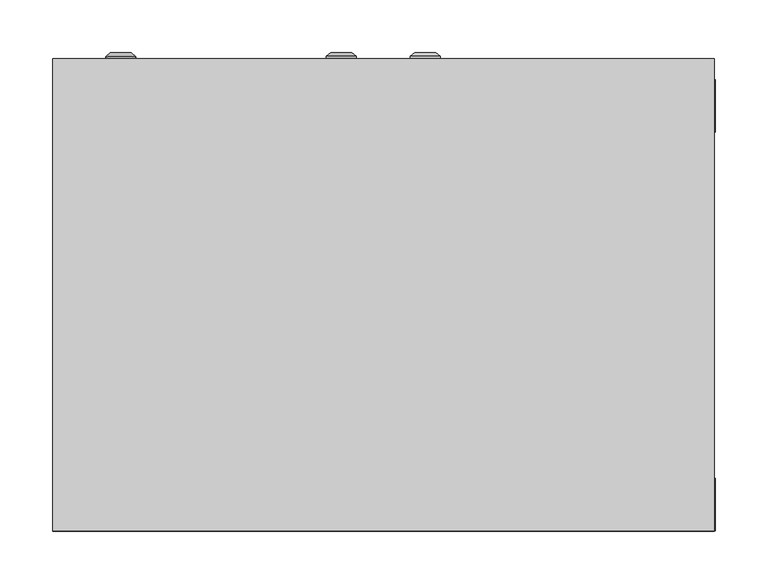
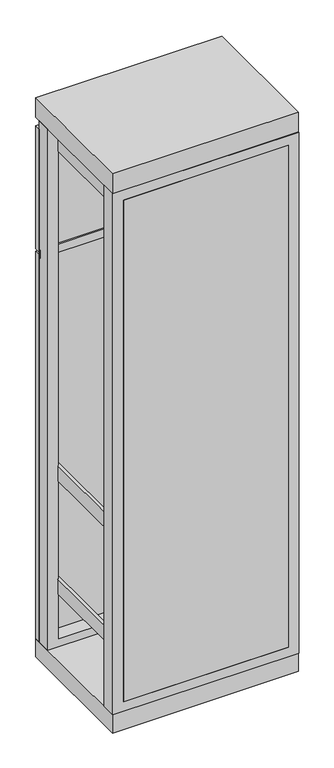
"""IFC4 building model written with IfcOpenShell, lengths in millimetres: proxy geometry, ВРУ-3 : ВРУ-3_2000х630х450."""

from ifc_helpers import new_model, si_unit, frame, origin, origin_with_axes, place, context, project, spatial, polyline, circle_curve, outline, extrude, source, transform, mapped, element, save
from ifc_brep_helpers import plane_surface, cylinder_surface, revolved_surface, advanced_brep


def electrical_equipment_d572dc0e(model_context):
    return source(origin(), model_context, "Body", "SolidModel", [
        advanced_brep(
        [(40.0, 450.0, 1680.0), (25.669873, 450.0, 1680.0), (54.330127, 450.0, 1680.0), (25.669873, 452.366592, 1680.0), (54.330127, 452.366592, 1680.0), (30.0, 456.0, 1680.0), (50.0, 456.0, 1680.0), (38.1080471, 456.0, 1680.0), (41.8919529, 456.0, 1680.0), (38.1080471, 454.9822294, 1680.0), (41.8919529, 454.9822294, 1680.0), (40.0, 454.9822294, 1680.0)],
        [
            (0, 1),
            (1, 2, circle_curve(frame((40.0, 450.0, 1680.0), z_axis=(0.0, -1.0, 0.0), x_axis=(-1.0, 0.0, 0.0)), 14.330127)),
            (2, 0),
            (2, 1, circle_curve(frame((40.0, 450.0, 1680.0), z_axis=(0.0, -1.0, 0.0), x_axis=(-1.0, 0.0, 0.0)), 14.330127)),
            (1, 3),
            (3, 4, circle_curve(frame((40.0, 452.366592, 1680.0), z_axis=(0.0, -1.0, 0.0), x_axis=(-1.0, 0.0, 0.0)), 14.330127)),
            (4, 2),
            (4, 3, circle_curve(frame((40.0, 452.366592, 1680.0), z_axis=(0.0, -1.0, 0.0), x_axis=(-1.0, 0.0, 0.0)), 14.330127)),
            (3, 5),
            (5, 6, circle_curve(frame((40.0, 456.0, 1680.0), z_axis=(0.0, -1.0, 0.0), x_axis=(-1.0, 0.0, 0.0)), 10.0)),
            (6, 4),
            (6, 5, circle_curve(frame((40.0, 456.0, 1680.0), z_axis=(0.0, -1.0, 0.0), x_axis=(-1.0, 0.0, 0.0)), 10.0)),
            (5, 7),
            (7, 8, circle_curve(frame((40.0, 456.0, 1680.0), z_axis=(0.0, -1.0, 0.0), x_axis=(-1.0, 0.0, 0.0)), 1.8919529)),
            (8, 6),
            (8, 7, circle_curve(frame((40.0, 456.0, 1680.0), z_axis=(0.0, -1.0, 0.0), x_axis=(-1.0, 0.0, 0.0)), 1.8919529)),
            (7, 9),
            (9, 10, circle_curve(frame((40.0, 454.9822294, 1680.0), z_axis=(0.0, -1.0, 0.0), x_axis=(-1.0, 0.0, 0.0)), 1.8919529)),
            (10, 8),
            (10, 9, circle_curve(frame((40.0, 454.9822294, 1680.0), z_axis=(0.0, -1.0, 0.0), x_axis=(-1.0, 0.0, 0.0)), 1.8919529)),
            (9, 11),
            (11, 10),
        ],
        [
            plane_surface(frame((40.0, 450.0, 1680.0), z_axis=(0.0, -1.0, 0.0), x_axis=(-1.0, 0.0, 0.0))),
            cylinder_surface(frame((40.0, 463.1348851, 1680.0), z_axis=(0.0, -1.0, 0.0), x_axis=(-1.0, 0.0, 0.0)), 14.330127),
            revolved_surface(polyline([(30.0, 456.0, 1680.0), (25.669873, 452.366592, 1680.0)]), (40.0, 463.1348851, 1680.0), (0.0, -1.0, 0.0)),
            plane_surface(frame((40.0, 456.0, 1680.0), z_axis=(0.0, 1.0, 0.0), x_axis=(-1.0, 0.0, 0.0))),
            revolved_surface(polyline([(38.1080471, 454.9822294, 1680.0), (38.1080471, 456.0, 1680.0)]), (40.0, 463.1348851, 1680.0), (0.0, -1.0, 0.0)),
            plane_surface(frame((40.0, 454.9822294, 1680.0), z_axis=(0.0, 1.0, 0.0), x_axis=(-1.0, 0.0, 0.0))),
        ],
        [
            (0, [[1, 2, 3]]),
            (0, [[-3, 4, -1]]),
            (1, [[-2, 5, 6, 7]]),
            (1, [[-4, -7, 8, -5]]),
            (2, [[-6, 9, 10, 11]]),
            (2, [[-8, -11, 12, -9]]),
            (3, [[-10, 13, 14, 15]]),
            (3, [[-12, -15, 16, -13]]),
            (4, [[-14, 17, 18, 19]]),
            (4, [[-16, -19, 20, -17]]),
            (5, [[-18, 21, 22]]),
            (5, [[-20, -22, -21]]),
        ],
    ),
        advanced_brep(
        [(-54.330127, 450.0, 1680.0), (-25.669873, 450.0, 1680.0), (-40.0, 450.0, 1680.0), (-54.330127, 452.366592, 1680.0), (-25.669873, 452.366592, 1680.0), (-50.0, 456.0, 1680.0), (-30.0, 456.0, 1680.0), (-41.8919529, 456.0, 1680.0), (-38.1080471, 456.0, 1680.0), (-41.8919529, 454.9822294, 1680.0), (-38.1080471, 454.9822294, 1680.0), (-40.0, 454.9822294, 1680.0)],
        [
            (0, 1, circle_curve(frame((-40.0, 450.0, 1680.0), z_axis=(0.0, -1.0, 0.0), x_axis=(1.0, 0.0, 0.0)), 14.330127)),
            (1, 2),
            (2, 0),
            (1, 0, circle_curve(frame((-40.0, 450.0, 1680.0), z_axis=(0.0, -1.0, 0.0), x_axis=(1.0, 0.0, 0.0)), 14.330127)),
            (3, 4, circle_curve(frame((-40.0, 452.366592, 1680.0), z_axis=(0.0, -1.0, 0.0), x_axis=(1.0, 0.0, 0.0)), 14.330127)),
            (4, 1),
            (0, 3),
            (4, 3, circle_curve(frame((-40.0, 452.366592, 1680.0), z_axis=(0.0, -1.0, 0.0), x_axis=(1.0, 0.0, 0.0)), 14.330127)),
            (5, 6, circle_curve(frame((-40.0, 456.0, 1680.0), z_axis=(0.0, -1.0, 0.0), x_axis=(1.0, 0.0, 0.0)), 10.0)),
            (6, 4),
            (3, 5),
            (6, 5, circle_curve(frame((-40.0, 456.0, 1680.0), z_axis=(0.0, -1.0, 0.0), x_axis=(1.0, 0.0, 0.0)), 10.0)),
            (7, 8, circle_curve(frame((-40.0, 456.0, 1680.0), z_axis=(0.0, -1.0, 0.0), x_axis=(1.0, 0.0, 0.0)), 1.8919529)),
            (8, 6),
            (5, 7),
            (8, 7, circle_curve(frame((-40.0, 456.0, 1680.0), z_axis=(0.0, -1.0, 0.0), x_axis=(1.0, 0.0, 0.0)), 1.8919529)),
            (9, 10, circle_curve(frame((-40.0, 454.9822294, 1680.0), z_axis=(0.0, -1.0, 0.0), x_axis=(1.0, 0.0, 0.0)), 1.8919529)),
            (10, 8),
            (7, 9),
            (10, 9, circle_curve(frame((-40.0, 454.9822294, 1680.0), z_axis=(0.0, -1.0, 0.0), x_axis=(1.0, 0.0, 0.0)), 1.8919529)),
            (11, 10),
            (9, 11),
        ],
        [
            plane_surface(frame((-40.0, 450.0, 1680.0), z_axis=(0.0, -1.0, 0.0), x_axis=(1.0, 0.0, 0.0))),
            cylinder_surface(frame((-40.0, 463.1348851, 1680.0), z_axis=(0.0, 1.0, 0.0), x_axis=(1.0, 0.0, 0.0)), 14.330127),
            revolved_surface(polyline([(-25.669873, 452.366592, 1680.0), (-30.0, 456.0, 1680.0)]), (-40.0, 463.1348851, 1680.0), (0.0, 1.0, 0.0)),
            plane_surface(frame((-40.0, 456.0, 1680.0), z_axis=(0.0, 1.0, 0.0), x_axis=(1.0, 0.0, 0.0))),
            revolved_surface(polyline([(-38.1080471, 456.0, 1680.0), (-38.1080471, 454.9822294, 1680.0)]), (-40.0, 463.1348851, 1680.0), (0.0, 1.0, 0.0)),
            plane_surface(frame((-40.0, 454.9822294, 1680.0), z_axis=(0.0, 1.0, 0.0), x_axis=(1.0, 0.0, 0.0))),
        ],
        [
            (0, [[1, 2, 3]]),
            (0, [[4, -3, -2]]),
            (1, [[5, 6, -1, 7]]),
            (1, [[8, -7, -4, -6]]),
            (2, [[9, 10, -5, 11]]),
            (2, [[12, -11, -8, -10]]),
            (3, [[13, 14, -9, 15]]),
            (3, [[16, -15, -12, -14]]),
            (4, [[17, 18, -13, 19]]),
            (4, [[20, -19, -16, -18]]),
            (5, [[21, -17, 22]]),
            (5, [[-22, -20, -21]]),
        ],
    ),
        extrude(outline(polyline([(1470.0, 15.0), (1887.9861595, 15.0), (1887.9861595, -15.0), (1470.0, -15.0), (1470.0, -315.0), (1440.0, -315.0), (1440.0, 315.0), (1470.0, 315.0), (1470.0, 15.0)])), frame((0.0, 425.0, 0.0), z_axis=(0.0, 1.0, 0.0), x_axis=(0.0, 0.0, 1.0)), (0.0, 0.0, 1.0), 5.0),
        extrude(outline(polyline([(315.0, 430.0), (5.0, 430.0), (5.0, 450.0), (315.0, 450.0), (315.0, 430.0)])), frame((0.0, 0.0, 1460.0), z_axis=(0.0, 0.0, 1.0), x_axis=(1.0, 0.0, 0.0)), (0.0, 0.0, 1.0), 440.0),
        extrude(outline(polyline([(-5.0, 430.0), (-315.0, 430.0), (-315.0, 450.0), (-5.0, 450.0), (-5.0, 430.0)])), frame((0.0, 0.0, 1460.0), z_axis=(0.0, 0.0, 1.0), x_axis=(1.0, 0.0, 0.0)), (0.0, 0.0, 1.0), 440.0),
        extrude(outline(polyline([(280.8707865, 0.0), (-278.3426966, 0.0), (-278.3426966, 10.0), (280.8707865, 10.0), (280.8707865, 0.0)])), frame((0.0, 0.0, 99.1378449), z_axis=(0.0, 0.0, 1.0), x_axis=(1.0, 0.0, 0.0)), (0.0, 0.0, 1.0), 1794.6160511),
        extrude(outline(polyline([(-270.8707865, 125.9831461), (-230.8707865, 125.9831461), (-230.8707865, 93.1179775), (-233.8707865, 93.1179775), (-233.8707865, 122.9831461), (-267.8707865, 122.9831461), (-267.8707865, 93.1179775), (-270.8707865, 93.1179775), (-270.8707865, 125.9831461)])), frame((0.0, 0.0, 189.6067416), z_axis=(0.0, 0.0, 1.0), x_axis=(1.0, 0.0, 0.0)), (0.0, 0.0, 1.0), 1740.3932584),
        extrude(outline(polyline([(230.8707865, 125.9831461), (270.8707865, 125.9831461), (270.8707865, 93.1179775), (267.8707865, 93.1179775), (267.8707865, 122.9831461), (233.8707865, 122.9831461), (233.8707865, 93.1179775), (230.8707865, 93.1179775), (230.8707865, 125.9831461)])), frame((0.0, 0.0, 189.6067416), z_axis=(0.0, 0.0, 1.0), x_axis=(1.0, 0.0, 0.0)), (0.0, 0.0, 1.0), 1740.3932584),
        extrude(outline(polyline([(-270.8707865, 10.0), (-280.8707865, 10.0), (-280.8707865, 430.0), (-270.8707865, 430.0), (-270.8707865, 10.0)])), frame((0.0, 0.0, 1840.5966059), z_axis=(0.0, 0.0, 1.0), x_axis=(1.0, 0.0, 0.0)), (0.0, 0.0, 1.0), 53.0898876),
        extrude(outline(polyline([(280.8707865, 10.0), (270.8707865, 10.0), (270.8707865, 430.0), (280.8707865, 430.0), (280.8707865, 10.0)])), frame((0.0, 0.0, 1840.5966059), z_axis=(0.0, 0.0, 1.0), x_axis=(1.0, 0.0, 0.0)), (0.0, 0.0, 1.0), 53.0898876),
        extrude(outline(polyline([(-270.8707865, 10.0), (-280.8707865, 10.0), (-280.8707865, 430.0), (-270.8707865, 430.0), (-270.8707865, 10.0)])), frame((0.0, 0.0, 255.5966059), z_axis=(0.0, 0.0, 1.0), x_axis=(1.0, 0.0, 0.0)), (0.0, 0.0, 1.0), 53.0898876),
        extrude(outline(polyline([(280.8707865, 10.0), (270.8707865, 10.0), (270.8707865, 430.0), (280.8707865, 430.0), (280.8707865, 10.0)])), frame((0.0, 0.0, 255.5966059), z_axis=(0.0, 0.0, 1.0), x_axis=(1.0, 0.0, 0.0)), (0.0, 0.0, 1.0), 53.0898876),
        extrude(outline(polyline([(-270.8707865, 10.0), (-280.8707865, 10.0), (-280.8707865, 430.0), (-270.8707865, 430.0), (-270.8707865, 10.0)])), frame((0.0, 0.0, 660.5966059), z_axis=(0.0, 0.0, 1.0), x_axis=(1.0, 0.0, 0.0)), (0.0, 0.0, 1.0), 53.0898876),
        extrude(outline(polyline([(280.8707865, 0.0), (270.8707865, 0.0), (270.8707865, 430.0), (280.8707865, 430.0), (280.8707865, 0.0)])), frame((0.0, 0.0, 660.5966059), z_axis=(0.0, 0.0, 1.0), x_axis=(1.0, 0.0, 0.0)), (0.0, 0.0, 1.0), 53.0898876),
        extrude(outline(polyline([(1929.1471543, -315.0), (65.0187804, -315.0), (65.0187804, 316.2640449), (1929.1471543, 316.2640449), (1929.1471543, -315.0)]), holes=[polyline([(99.1378449, 280.8707865), (99.1378449, -278.3426966), (1893.7538959, -278.3426966), (1893.7538959, 280.8707865), (99.1378449, 280.8707865)])]), frame((0.0, 0.0, 0.0), z_axis=(0.0, 1.0, 0.0), x_axis=(0.0, 0.0, 1.0)), (0.0, 0.0, 1.0), 50.0),
        extrude(outline(polyline([(1930.0, -315.0), (65.0187804, -315.0), (65.0187804, 316.2640449), (1930.0, 316.2640449), (1930.0, -315.0)]), holes=[polyline([(93.3701084, 280.8707865), (93.3701084, -278.3426966), (1887.9861595, -278.3426966), (1887.9861595, 280.8707865), (93.3701084, 280.8707865)])]), frame((0.0, 380.0, 0.0), z_axis=(0.0, 1.0, 0.0), x_axis=(0.0, 0.0, 1.0)), (0.0, 0.0, 1.0), 50.0),
        extrude(outline(polyline([(315.0067809, 450.0), (315.0067809, 0.0), (-315.0, 0.0), (-315.0, 450.0), (315.0067809, 450.0)])), frame((0.0, 0.0, 1930.0), z_axis=(0.0, 0.0, 1.0), x_axis=(1.0, 0.0, 0.0)), (0.0, 0.0, 1.0), 70.0),
        advanced_brep(
        [(-264.330127, 450.0, 375.0), (-235.669873, 450.0, 375.0), (-250.0, 450.0, 375.0), (-264.330127, 452.366592, 375.0), (-235.669873, 452.366592, 375.0), (-260.0, 456.0, 375.0), (-240.0, 456.0, 375.0), (-251.8919529, 456.0, 375.0), (-248.1080471, 456.0, 375.0), (-251.8919529, 454.9822294, 375.0), (-248.1080471, 454.9822294, 375.0), (-250.0, 454.9822294, 375.0)],
        [
            (0, 1, circle_curve(frame((-250.0, 450.0, 375.0), z_axis=(0.0, -1.0, 0.0), x_axis=(1.0, 0.0, 0.0)), 14.330127)),
            (1, 2),
            (2, 0),
            (1, 0, circle_curve(frame((-250.0, 450.0, 375.0), z_axis=(0.0, -1.0, 0.0), x_axis=(1.0, 0.0, 0.0)), 14.330127)),
            (3, 4, circle_curve(frame((-250.0, 452.366592, 375.0), z_axis=(0.0, -1.0, 0.0), x_axis=(1.0, 0.0, 0.0)), 14.330127)),
            (4, 1),
            (0, 3),
            (4, 3, circle_curve(frame((-250.0, 452.366592, 375.0), z_axis=(0.0, -1.0, 0.0), x_axis=(1.0, 0.0, 0.0)), 14.330127)),
            (5, 6, circle_curve(frame((-250.0, 456.0, 375.0), z_axis=(0.0, -1.0, 0.0), x_axis=(1.0, 0.0, 0.0)), 10.0)),
            (6, 4),
            (3, 5),
            (6, 5, circle_curve(frame((-250.0, 456.0, 375.0), z_axis=(0.0, -1.0, 0.0), x_axis=(1.0, 0.0, 0.0)), 10.0)),
            (7, 8, circle_curve(frame((-250.0, 456.0, 375.0), z_axis=(0.0, -1.0, 0.0), x_axis=(1.0, 0.0, 0.0)), 1.8919529)),
            (8, 6),
            (5, 7),
            (8, 7, circle_curve(frame((-250.0, 456.0, 375.0), z_axis=(0.0, -1.0, 0.0), x_axis=(1.0, 0.0, 0.0)), 1.8919529)),
            (9, 10, circle_curve(frame((-250.0, 454.9822294, 375.0), z_axis=(0.0, -1.0, 0.0), x_axis=(1.0, 0.0, 0.0)), 1.8919529)),
            (10, 8),
            (7, 9),
            (10, 9, circle_curve(frame((-250.0, 454.9822294, 375.0), z_axis=(0.0, -1.0, 0.0), x_axis=(1.0, 0.0, 0.0)), 1.8919529)),
            (11, 10),
            (9, 11),
        ],
        [
            plane_surface(frame((-250.0, 450.0, 375.0), z_axis=(0.0, -1.0, 0.0), x_axis=(1.0, 0.0, 0.0))),
            cylinder_surface(frame((-250.0, 463.1348851, 375.0), z_axis=(0.0, 1.0, 0.0), x_axis=(1.0, 0.0, 0.0)), 14.330127),
            revolved_surface(polyline([(-235.669873, 452.366592, 375.0), (-240.0, 456.0, 375.0)]), (-250.0, 463.1348851, 375.0), (0.0, 1.0, 0.0)),
            plane_surface(frame((-250.0, 456.0, 375.0), z_axis=(0.0, 1.0, 0.0), x_axis=(1.0, 0.0, 0.0))),
            revolved_surface(polyline([(-248.1080471, 456.0, 375.0), (-248.1080471, 454.9822294, 375.0)]), (-250.0, 463.1348851, 375.0), (0.0, 1.0, 0.0)),
            plane_surface(frame((-250.0, 454.9822294, 375.0), z_axis=(0.0, 1.0, 0.0), x_axis=(1.0, 0.0, 0.0))),
        ],
        [
            (0, [[1, 2, 3]]),
            (0, [[4, -3, -2]]),
            (1, [[5, 6, -1, 7]]),
            (1, [[8, -7, -4, -6]]),
            (2, [[9, 10, -5, 11]]),
            (2, [[12, -11, -8, -10]]),
            (3, [[13, 14, -9, 15]]),
            (3, [[16, -15, -12, -14]]),
            (4, [[17, 18, -13, 19]]),
            (4, [[20, -19, -16, -18]]),
            (5, [[21, -17, 22]]),
            (5, [[-22, -20, -21]]),
        ],
    ),
        advanced_brep(
        [(-264.330127, 450.0, 880.0), (-235.669873, 450.0, 880.0), (-250.0, 450.0, 880.0), (-264.330127, 452.366592, 880.0), (-235.669873, 452.366592, 880.0), (-260.0, 456.0, 880.0), (-240.0, 456.0, 880.0), (-251.8919529, 456.0, 880.0), (-248.1080471, 456.0, 880.0), (-251.8919529, 454.9822294, 880.0), (-248.1080471, 454.9822294, 880.0), (-250.0, 454.9822294, 880.0)],
        [
            (0, 1, circle_curve(frame((-250.0, 450.0, 880.0), z_axis=(0.0, -1.0, 0.0), x_axis=(1.0, 0.0, 0.0)), 14.330127)),
            (1, 2),
            (2, 0),
            (1, 0, circle_curve(frame((-250.0, 450.0, 880.0), z_axis=(0.0, -1.0, 0.0), x_axis=(1.0, 0.0, 0.0)), 14.330127)),
            (3, 4, circle_curve(frame((-250.0, 452.366592, 880.0), z_axis=(0.0, -1.0, 0.0), x_axis=(1.0, 0.0, 0.0)), 14.330127)),
            (4, 1),
            (0, 3),
            (4, 3, circle_curve(frame((-250.0, 452.366592, 880.0), z_axis=(0.0, -1.0, 0.0), x_axis=(1.0, 0.0, 0.0)), 14.330127)),
            (5, 6, circle_curve(frame((-250.0, 456.0, 880.0), z_axis=(0.0, -1.0, 0.0), x_axis=(1.0, 0.0, 0.0)), 10.0)),
            (6, 4),
            (3, 5),
            (6, 5, circle_curve(frame((-250.0, 456.0, 880.0), z_axis=(0.0, -1.0, 0.0), x_axis=(1.0, 0.0, 0.0)), 10.0)),
            (7, 8, circle_curve(frame((-250.0, 456.0, 880.0), z_axis=(0.0, -1.0, 0.0), x_axis=(1.0, 0.0, 0.0)), 1.8919529)),
            (8, 6),
            (5, 7),
            (8, 7, circle_curve(frame((-250.0, 456.0, 880.0), z_axis=(0.0, -1.0, 0.0), x_axis=(1.0, 0.0, 0.0)), 1.8919529)),
            (9, 10, circle_curve(frame((-250.0, 454.9822294, 880.0), z_axis=(0.0, -1.0, 0.0), x_axis=(1.0, 0.0, 0.0)), 1.8919529)),
            (10, 8),
            (7, 9),
            (10, 9, circle_curve(frame((-250.0, 454.9822294, 880.0), z_axis=(0.0, -1.0, 0.0), x_axis=(1.0, 0.0, 0.0)), 1.8919529)),
            (11, 10),
            (9, 11),
        ],
        [
            plane_surface(frame((-250.0, 450.0, 880.0), z_axis=(0.0, -1.0, 0.0), x_axis=(1.0, 0.0, 0.0))),
            cylinder_surface(frame((-250.0, 463.1348851, 880.0), z_axis=(0.0, 1.0, 0.0), x_axis=(1.0, 0.0, 0.0)), 14.330127),
            revolved_surface(polyline([(-235.669873, 452.366592, 880.0), (-240.0, 456.0, 880.0)]), (-250.0, 463.1348851, 880.0), (0.0, 1.0, 0.0)),
            plane_surface(frame((-250.0, 456.0, 880.0), z_axis=(0.0, 1.0, 0.0), x_axis=(1.0, 0.0, 0.0))),
            revolved_surface(polyline([(-248.1080471, 456.0, 880.0), (-248.1080471, 454.9822294, 880.0)]), (-250.0, 463.1348851, 880.0), (0.0, 1.0, 0.0)),
            plane_surface(frame((-250.0, 454.9822294, 880.0), z_axis=(0.0, 1.0, 0.0), x_axis=(1.0, 0.0, 0.0))),
        ],
        [
            (0, [[1, 2, 3]]),
            (0, [[4, -3, -2]]),
            (1, [[5, 6, -1, 7]]),
            (1, [[8, -7, -4, -6]]),
            (2, [[9, 10, -5, 11]]),
            (2, [[12, -11, -8, -10]]),
            (3, [[13, 14, -9, 15]]),
            (3, [[16, -15, -12, -14]]),
            (4, [[17, 18, -13, 19]]),
            (4, [[20, -19, -16, -18]]),
            (5, [[21, -17, 22]]),
            (5, [[-22, -20, -21]]),
        ],
    ),
        extrude(outline(polyline([(315.0067809, 450.0), (315.0067809, 0.0), (-315.0, 0.0), (-315.0, 450.0), (315.0067809, 450.0)])), origin_with_axes(), (0.0, 0.0, 1.0), 65.0187804),
        extrude(outline(polyline([(315.0, 430.0), (-315.0, 430.0), (-315.0, 450.0), (315.0, 450.0), (315.0, 430.0)])), frame((0.0, 0.0, 65.0187804), z_axis=(0.0, 0.0, 1.0), x_axis=(1.0, 0.0, 0.0)), (0.0, 0.0, 1.0), 1384.9812196),
    ])


if __name__ == "__main__":
    model = new_model("IFC4")
    model_context = context("Model", 3, world=origin())
    ifc_project = project(units=[si_unit("LENGTHUNIT", "METRE", prefix="MILLI")], contexts=[model_context])
    site = spatial("IfcSite", under=ifc_project)
    building = spatial("IfcBuilding", under=site)
    placement = place(None, origin())
    electrical_equipment_shape = electrical_equipment_d572dc0e(model_context)
    element("IfcBuildingElementProxy", 1, Name="ВРУ-3 : ВРУ-3_2000х630х450", ObjectType="ВРУ-3 : ВРУ-3_2000х630х450", at=placement, inside=building, context=model_context, shape_type="MappedRepresentation", body=[
        mapped(electrical_equipment_shape, transform((0.0, 0.0, 0.0), x_axis=(1.0, 0.0, 0.0), y_axis=(0.0, 1.0, 0.0), z_axis=(0.0, 0.0, 1.0))),
    ])
    save(model, "model.ifc")
